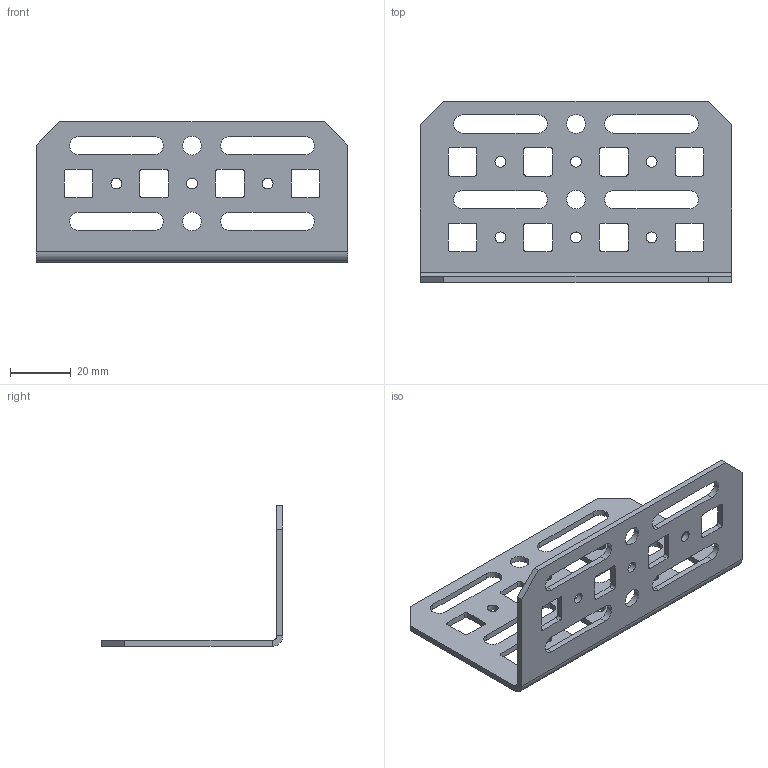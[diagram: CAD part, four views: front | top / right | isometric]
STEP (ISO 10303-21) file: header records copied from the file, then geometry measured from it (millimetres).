
FILE_DESCRIPTION (( 'STEP AP203' ), '1' );
FILE_NAME ('MP 06.10 PL Ïàíåëü ìîíòàæíàÿ.STEP', '2012-11-26T12:23:24', ( 'system' ), ( '' ), 'SwSTEP 2.0', 'SolidWorks 2012', '' );
FILE_SCHEMA (( 'CONFIG_CONTROL_DESIGN' ));
Length unit declared in the file: millimetre
Products named in the file (1): MP 06.10 PL Ïàíåëü ìîíòàæíàÿ
Bounding box: 103 x 60 x 46.6 mm (x, y, z)
Volume: 15654.6 mm3; surface area: 18784.3 mm2
Topology: 1 solids, 1 shells, 180 faces, 526 edges, 348 vertices
Faces by surface type: cylinder 100, plane 80
Entity records: 6235 total; most frequent: DIRECTION 1088, CARTESIAN_POINT 1055, ORIENTED_EDGE 1052, EDGE_CURVE 526, AXIS2_PLACEMENT_3D 381, VERTEX_POINT 348, LINE 326, VECTOR 326
